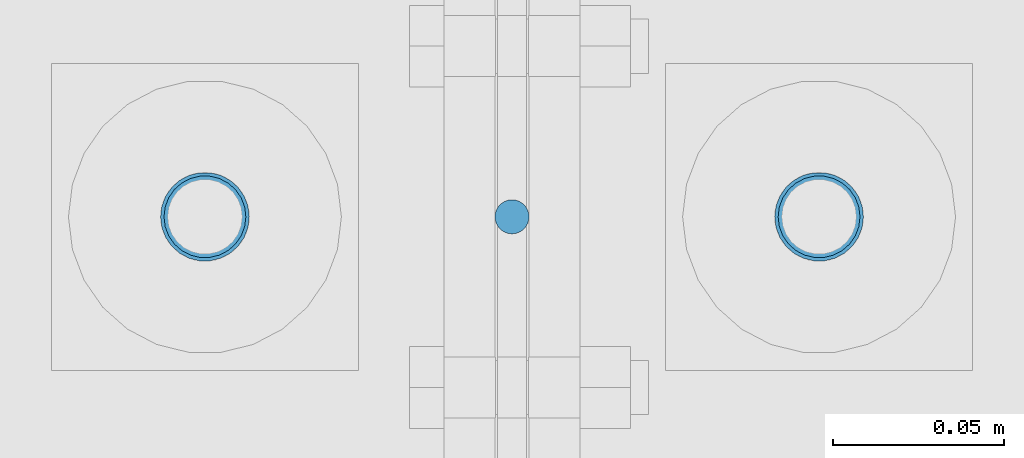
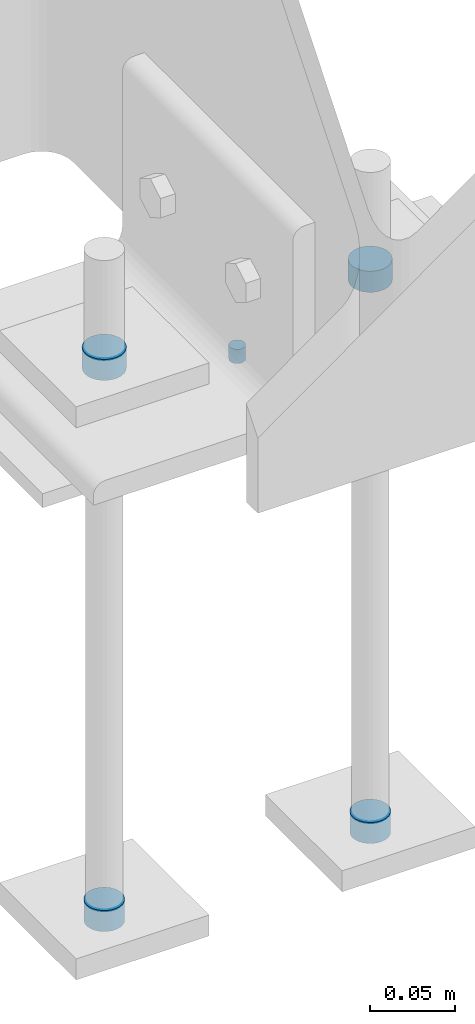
# One storey, part 94 of 123: 5 mechanical fasteners, 1 element without a shape of its own.
"""IFC2X3 building model written with IfcOpenShell, lengths in millimetres."""

from ifc_helpers import new_model, si_unit, frame, origin_with_axes, origin_2d_with_axis, place, context, subcontext, project, spatial, circle, extrude, source, transform, mapped, material, type_object, element, aggregate, save


model = new_model("IFC2X3")

# Units and contexts
model_context = context("Model", 3, precision=1e-05, world=origin_with_axes())
body_context = subcontext(model_context, "Body", "Model", "MODEL_VIEW")
ifc_project = project(units=[si_unit("LENGTHUNIT", "METRE", prefix="MILLI"), si_unit("AREAUNIT", "SQUARE_METRE"), si_unit("VOLUMEUNIT", "CUBIC_METRE"), si_unit("MASSUNIT", "GRAM", prefix="KILO"), si_unit("TIMEUNIT", "SECOND"), si_unit("PLANEANGLEUNIT", "RADIAN"), si_unit("SOLIDANGLEUNIT", "STERADIAN"), si_unit("THERMODYNAMICTEMPERATUREUNIT", "DEGREE_CELSIUS"), si_unit("LUMINOUSINTENSITYUNIT", "LUMEN")], contexts=[model_context])

# Site, building, storey
site_placement = place(None, origin_with_axes())
site = spatial("IfcSite", under=ifc_project, at=site_placement, Name="Undefined", CompositionType="ELEMENT")
building_placement = place(site_placement, origin_with_axes())
building = spatial("IfcBuilding", under=site, at=building_placement, Name="Undefined", CompositionType="ELEMENT")
storey_placement = place(building_placement, origin_with_axes())
storey = spatial("IfcBuildingStorey", under=building, at=storey_placement, Name="Undefined", CompositionType="ELEMENT", Elevation=0.0)

# Assembly, mechanical fasteners
assembly_placement = place(storey_placement, origin_with_axes())
assembly = element("IfcElementAssembly", 1, at=assembly_placement, inside=storey, Name="Steel Assembly", AssemblyPlace="NOTDEFINED", PredefinedType="RIGID_FRAME")
ifc_material = material(Name="6.8")
discrete_accessory_type = type_object("IfcDiscreteAccessoryType", Name="Bolt assembly")
shared_shape_1 = source(origin_with_axes(), body_context, "Body", "SweptSolid", [
    extrude(circle(Radius=13.0, at=origin_2d_with_axis()), frame((0.0, -15.0, 0.0), z_axis=(0.0, 1.0, 0.0), x_axis=(1.0, 0.0, 0.0)), (0.0, 0.0, 1.0), 15.1),
])
mechanical_fastener_1_placement = place(assembly_placement, frame((-90.0028495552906, 0.0, -235.0), z_axis=(0.0, -1.0, 0.0), x_axis=(-1.0, 0.0, 0.0)))
mechanical_fastener_1 = element("IfcMechanicalFastener", 2, at=mechanical_fastener_1_placement, type_object=discrete_accessory_type, material=ifc_material, Name="Bolt assembly", NominalDiameter=24.0, NominalLength=15.0, context=body_context, shape_type="MappedRepresentation", body=[
    mapped(shared_shape_1, transform((0.0, 0.0, 0.0))),
])
mechanical_fastener_2_placement = place(assembly_placement, frame((89.9971504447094, 0.0, -235.0), z_axis=(0.0, -1.0, 0.0), x_axis=(-1.0, 0.0, 0.0)))
mechanical_fastener_2 = element("IfcMechanicalFastener", 3, at=mechanical_fastener_2_placement, type_object=discrete_accessory_type, material=ifc_material, Name="Bolt assembly", NominalDiameter=24.0, NominalLength=15.0, context=body_context, shape_type="MappedRepresentation", body=[
    mapped(shared_shape_1, transform((0.0, 0.0, 0.0))),
])
shared_shape_2 = source(origin_with_axes(), body_context, "Body", "SweptSolid", [
    extrude(circle(Radius=12.0, at=origin_2d_with_axis()), frame((0.0, -15.0, 0.0), z_axis=(0.0, 1.0, 0.0), x_axis=(1.0, 0.0, 0.0)), (0.0, 0.0, 1.0), 15.1),
])
mechanical_fastener_3_placement = place(assembly_placement, frame((-90.0028495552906, 0.0, -630.0), z_axis=(0.0, -1.0, 0.0), x_axis=(-1.0, 0.0, 0.0)))
mechanical_fastener_3 = element("IfcMechanicalFastener", 4, at=mechanical_fastener_3_placement, type_object=discrete_accessory_type, material=ifc_material, Name="Bolt assembly", NominalDiameter=22.0, NominalLength=15.0, context=body_context, shape_type="MappedRepresentation", body=[
    mapped(shared_shape_2, transform((0.0, 0.0, 0.0))),
])
mechanical_fastener_4_placement = place(assembly_placement, frame((89.9971504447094, 0.0, -630.0), z_axis=(0.0, -1.0, 0.0), x_axis=(-1.0, 0.0, 0.0)))
mechanical_fastener_4 = element("IfcMechanicalFastener", 5, at=mechanical_fastener_4_placement, type_object=discrete_accessory_type, material=ifc_material, Name="Bolt assembly", NominalDiameter=22.0, NominalLength=15.0, context=body_context, shape_type="MappedRepresentation", body=[
    mapped(shared_shape_2, transform((0.0, 0.0, 0.0))),
])
shared_shape_3 = source(origin_with_axes(), body_context, "Body", "SweptSolid", [
    extrude(circle(Radius=5.0, at=origin_2d_with_axis()), frame((0.0, 0.0, 0.0), z_axis=(0.0, 1.0, 0.0), x_axis=(1.0, 0.0, 0.0)), (0.0, 0.0, 1.0), 10.1),
])
mechanical_fastener_5_placement = place(assembly_placement, frame((7.3411058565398e-08, 0.0, -250.0), z_axis=(1.0, 0.0, 0.0), x_axis=(0.0, -1.0, 0.0)))
mechanical_fastener_5 = element("IfcMechanicalFastener", 6, at=mechanical_fastener_5_placement, type_object=discrete_accessory_type, material=ifc_material, Name="Bolt assembly", NominalDiameter=8.0, NominalLength=10.0, context=body_context, shape_type="MappedRepresentation", body=[
    mapped(shared_shape_3, transform((0.0, 0.0, 0.0))),
])
aggregate(assembly, [mechanical_fastener_5, mechanical_fastener_1, mechanical_fastener_2, mechanical_fastener_3, mechanical_fastener_4])

save(model, "model.ifc")
